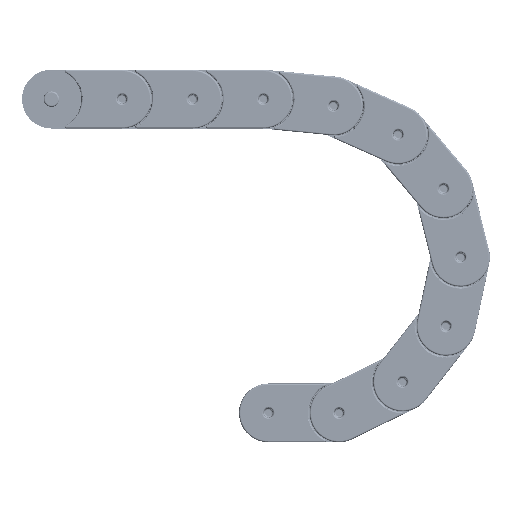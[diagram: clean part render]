
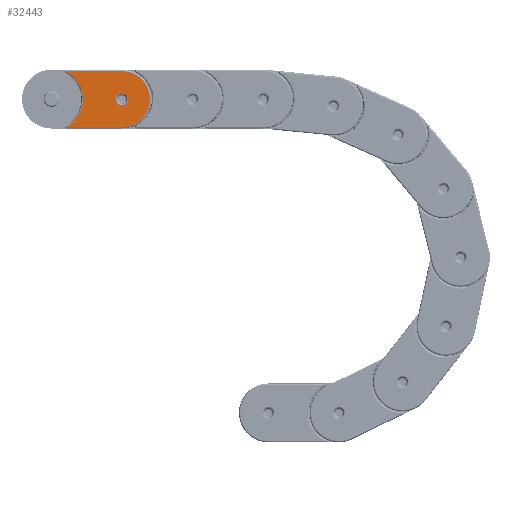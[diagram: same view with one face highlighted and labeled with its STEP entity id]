
A CAD part, left-side view. The second image highlights one B-rep face of the part: STEP entity #32443.
In plain terms, the highlighted planar face has unit normal (-1, 0, 0) as drawn and (1, 0, 0) by its records, which use the part's own axes.
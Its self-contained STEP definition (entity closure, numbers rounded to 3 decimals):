
#32323=CARTESIAN_POINT('',(62.,0.,0.0));
#32324=DIRECTION('',(-1.0,0.0,0.0));
#32325=DIRECTION('',(0.0,0.0,1.0));
#32326=AXIS2_PLACEMENT_3D('',#32323,#32324,#32325);
#32327=PLANE('',#32326);
#32328=CARTESIAN_POINT('',(62.,26.138,-35.5));
#32329=VERTEX_POINT('',#32328);
#32330=CARTESIAN_POINT('',(62.,-45.0,-35.5));
#32331=VERTEX_POINT('',#32330);
#32332=CARTESIAN_POINT('',(62.,26.138,-35.5));
#32333=DIRECTION('',(0.0,-1.0,0.0));
#32334=VECTOR('',#32333,71.138);
#32335=LINE('',#32332,#32334);
#32336=EDGE_CURVE('',#32329,#32331,#32335,.T.);
#32337=ORIENTED_EDGE('',*,*,#32336,.F.);
#32338=CARTESIAN_POINT('',(62.,13.464,-24.93));
#32339=VERTEX_POINT('',#32338);
#32340=CARTESIAN_POINT('',(62.,45.0,0.));
#32341=DIRECTION('',(1.0,0.0,0.0));
#32342=DIRECTION('',(0.0,-0.667,-0.745));
#32343=AXIS2_PLACEMENT_3D('',#32340,#32341,#32342);
#32344=CIRCLE('',#32343,40.2);
#32345=EDGE_CURVE('',#32339,#32329,#32344,.T.);
#32346=ORIENTED_EDGE('',*,*,#32345,.F.);
#32347=CARTESIAN_POINT('',(62.,13.464,-21.558));
#32348=VERTEX_POINT('',#32347);
#32349=CARTESIAN_POINT('',(62.,13.464,-21.558));
#32350=DIRECTION('',(0.0,0.0,-1.0));
#32351=VECTOR('',#32350,3.373);
#32352=LINE('',#32349,#32351);
#32353=EDGE_CURVE('',#32348,#32339,#32352,.T.);
#32354=ORIENTED_EDGE('',*,*,#32353,.F.);
#32355=CARTESIAN_POINT('',(62.,13.425,-21.5));
#32356=VERTEX_POINT('',#32355);
#32357=CARTESIAN_POINT('',(62.,45.0,0.));
#32358=DIRECTION('',(-1.0,0.0,0.0));
#32359=DIRECTION('',(0.0,1.0,0.0));
#32360=AXIS2_PLACEMENT_3D('',#32357,#32358,#32359);
#32361=CIRCLE('',#32360,38.2);
#32362=EDGE_CURVE('',#32348,#32356,#32361,.T.);
#32363=ORIENTED_EDGE('',*,*,#32362,.T.);
#32364=CARTESIAN_POINT('',(62.,11.033,-21.5));
#32365=VERTEX_POINT('',#32364);
#32366=CARTESIAN_POINT('',(62.,11.033,-21.5));
#32367=DIRECTION('',(0.0,1.0,0.0));
#32368=VECTOR('',#32367,2.392);
#32369=LINE('',#32366,#32368);
#32370=EDGE_CURVE('',#32365,#32356,#32369,.T.);
#32371=ORIENTED_EDGE('',*,*,#32370,.F.);
#32372=CARTESIAN_POINT('',(62.,11.033,21.5));
#32373=VERTEX_POINT('',#32372);
#32374=CARTESIAN_POINT('',(62.,45.0,0.));
#32375=DIRECTION('',(1.0,0.0,0.0));
#32376=DIRECTION('',(0.0,-1.0,0.0));
#32377=AXIS2_PLACEMENT_3D('',#32374,#32375,#32376);
#32378=CIRCLE('',#32377,40.2);
#32379=EDGE_CURVE('',#32373,#32365,#32378,.T.);
#32380=ORIENTED_EDGE('',*,*,#32379,.F.);
#32381=CARTESIAN_POINT('',(62.,13.425,21.5));
#32382=VERTEX_POINT('',#32381);
#32383=CARTESIAN_POINT('',(62.,13.425,21.5));
#32384=DIRECTION('',(0.0,-1.0,0.0));
#32385=VECTOR('',#32384,2.392);
#32386=LINE('',#32383,#32385);
#32387=EDGE_CURVE('',#32382,#32373,#32386,.T.);
#32388=ORIENTED_EDGE('',*,*,#32387,.F.);
#32389=CARTESIAN_POINT('',(62.,13.464,21.558));
#32390=VERTEX_POINT('',#32389);
#32391=CARTESIAN_POINT('',(62.,45.0,0.));
#32392=DIRECTION('',(-1.0,0.0,0.0));
#32393=DIRECTION('',(0.0,1.0,0.0));
#32394=AXIS2_PLACEMENT_3D('',#32391,#32392,#32393);
#32395=CIRCLE('',#32394,38.2);
#32396=EDGE_CURVE('',#32382,#32390,#32395,.T.);
#32397=ORIENTED_EDGE('',*,*,#32396,.T.);
#32398=CARTESIAN_POINT('',(62.,13.464,24.93));
#32399=VERTEX_POINT('',#32398);
#32400=CARTESIAN_POINT('',(62.,13.464,24.93));
#32401=DIRECTION('',(0.0,0.0,-1.0));
#32402=VECTOR('',#32401,3.373);
#32403=LINE('',#32400,#32402);
#32404=EDGE_CURVE('',#32399,#32390,#32403,.T.);
#32405=ORIENTED_EDGE('',*,*,#32404,.F.);
#32406=CARTESIAN_POINT('',(62.,26.138,35.5));
#32407=VERTEX_POINT('',#32406);
#32408=CARTESIAN_POINT('',(62.,45.0,0.));
#32409=DIRECTION('',(1.0,0.0,0.0));
#32410=DIRECTION('',(0.0,-0.667,0.745));
#32411=AXIS2_PLACEMENT_3D('',#32408,#32409,#32410);
#32412=CIRCLE('',#32411,40.2);
#32413=EDGE_CURVE('',#32407,#32399,#32412,.T.);
#32414=ORIENTED_EDGE('',*,*,#32413,.F.);
#32415=CARTESIAN_POINT('',(62.,-45.0,35.5));
#32416=VERTEX_POINT('',#32415);
#32417=CARTESIAN_POINT('',(62.,-45.0,35.5));
#32418=DIRECTION('',(0.0,1.0,0.0));
#32419=VECTOR('',#32418,71.138);
#32420=LINE('',#32417,#32419);
#32421=EDGE_CURVE('',#32416,#32407,#32420,.T.);
#32422=ORIENTED_EDGE('',*,*,#32421,.F.);
#32423=CARTESIAN_POINT('',(62.,-45.0,0.));
#32424=DIRECTION('',(-1.0,0.0,0.0));
#32425=DIRECTION('',(0.0,-1.0,0.0));
#32426=AXIS2_PLACEMENT_3D('',#32423,#32424,#32425);
#32427=CIRCLE('',#32426,35.5);
#32428=EDGE_CURVE('',#32331,#32416,#32427,.T.);
#32429=ORIENTED_EDGE('',*,*,#32428,.F.);
#32430=EDGE_LOOP('',(#32337,#32346,#32354,#32363,#32371,#32380,#32388,#32397,#32405,#32414,#32422,#32429));
#32431=FACE_OUTER_BOUND('',#32430,.T.);
#32432=CARTESIAN_POINT('',(62.,-53.,0.0));
#32433=VERTEX_POINT('',#32432);
#32434=CARTESIAN_POINT('',(62.,-45.0,0.));
#32435=DIRECTION('',(1.0,0.0,0.0));
#32436=DIRECTION('',(0.0,1.0,0.0));
#32437=AXIS2_PLACEMENT_3D('',#32434,#32435,#32436);
#32438=CIRCLE('',#32437,8.0);
#32439=EDGE_CURVE('',#32433,#32433,#32438,.T.);
#32440=ORIENTED_EDGE('',*,*,#32439,.F.);
#32441=EDGE_LOOP('',(#32440));
#32442=FACE_BOUND('',#32441,.T.);
#32443=ADVANCED_FACE('',(#32431,#32442),#32327,.F.);
